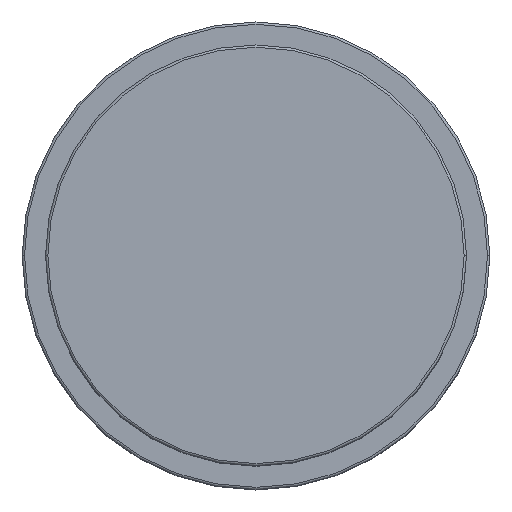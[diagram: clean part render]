
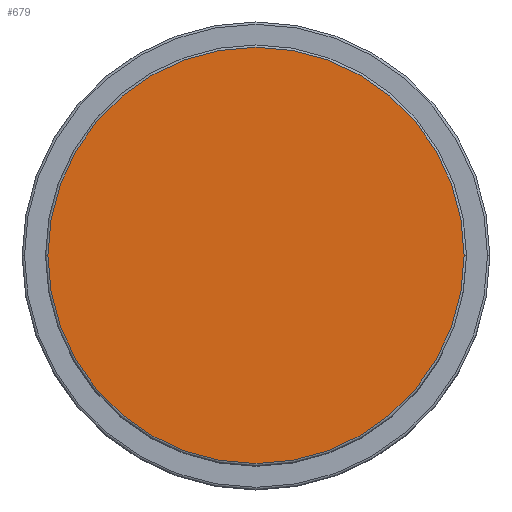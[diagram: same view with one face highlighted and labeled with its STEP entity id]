
A CAD part, top view. The second image highlights one B-rep face of the part: STEP entity #679.
In plain terms, the highlighted planar face has unit normal (0, 0, 1).
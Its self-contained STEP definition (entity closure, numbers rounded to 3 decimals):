
#9 = CIRCLE ( 'NONE', #189, 44.5 ) ;
#113 = EDGE_CURVE ( 'NONE', #1197, #1098, #1191, .T. ) ;
#189 = AXIS2_PLACEMENT_3D ( 'NONE', #244, #888, #756 ) ;
#194 = FACE_OUTER_BOUND ( 'NONE', #343, .T. ) ;
#244 = CARTESIAN_POINT ( 'NONE',  ( 0., 0., 72. ) ) ;
#250 = AXIS2_PLACEMENT_3D ( 'NONE', #796, #1558, #676 ) ;
#343 = EDGE_LOOP ( 'NONE', ( #903, #611 ) ) ;
#436 = CARTESIAN_POINT ( 'NONE',  ( 0., 0., 72. ) ) ;
#611 = ORIENTED_EDGE ( 'NONE', *, *, #113, .T. ) ;
#649 = AXIS2_PLACEMENT_3D ( 'NONE', #436, #1561, #1452 ) ;
#676 = DIRECTION ( 'NONE',  ( 1., 0., 0. ) ) ;
#679 = ADVANCED_FACE ( 'NONE', ( #194 ), #1295, .T. ) ;
#756 = DIRECTION ( 'NONE',  ( 1., 0., 0. ) ) ;
#796 = CARTESIAN_POINT ( 'NONE',  ( 0., 0., 72. ) ) ;
#888 = DIRECTION ( 'NONE',  ( 0., 0., 1. ) ) ;
#903 = ORIENTED_EDGE ( 'NONE', *, *, #1116, .T. ) ;
#1098 = VERTEX_POINT ( 'NONE', #1255 ) ;
#1116 = EDGE_CURVE ( 'NONE', #1098, #1197, #9, .T. ) ;
#1191 = CIRCLE ( 'NONE', #649, 44.5 ) ;
#1197 = VERTEX_POINT ( 'NONE', #1411 ) ;
#1255 = CARTESIAN_POINT ( 'NONE',  ( 44.5, 0., 72. ) ) ;
#1295 = PLANE ( 'NONE',  #250 ) ;
#1411 = CARTESIAN_POINT ( 'NONE',  ( -44.5, 0., 72. ) ) ;
#1452 = DIRECTION ( 'NONE',  ( 1., 0., 0. ) ) ;
#1558 = DIRECTION ( 'NONE',  ( 0., 0., 1. ) ) ;
#1561 = DIRECTION ( 'NONE',  ( 0., 0., 1. ) ) ;
